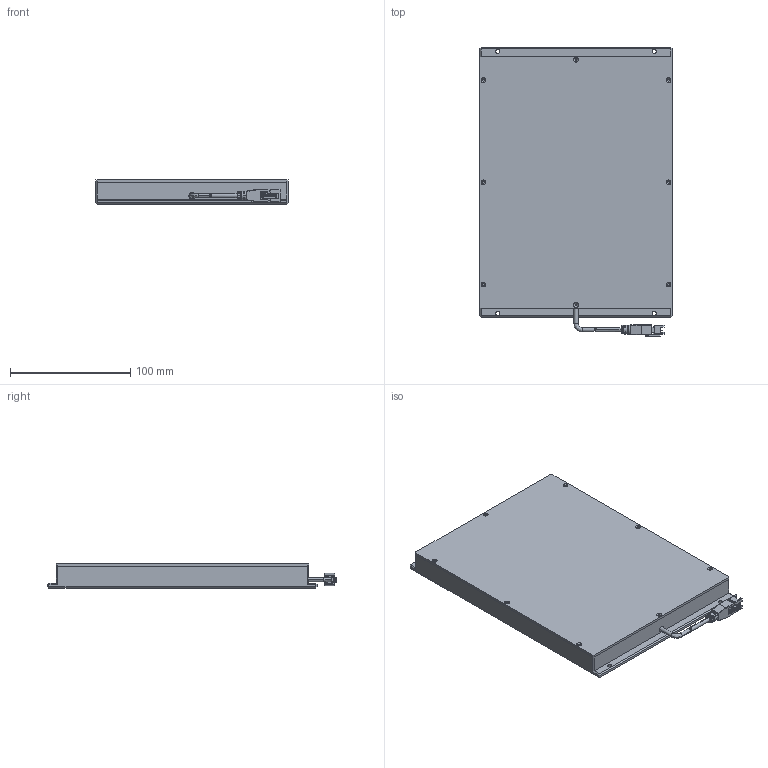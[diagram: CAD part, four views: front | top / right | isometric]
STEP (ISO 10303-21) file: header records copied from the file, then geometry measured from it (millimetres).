
FILE_DESCRIPTION (( 'STEP AP203' ), '1' );
FILE_NAME ('CRT-FLD200150-¼òÒ×3DÍ¼.STEP', '2021-11-24T01:24:21', ( 'Admin' ), ( '' ), 'SwSTEP 2.0', 'SolidWorks 2018', '' );
FILE_SCHEMA (( 'CONFIG_CONTROL_DESIGN' ));
Length unit declared in the file: millimetre
Products named in the file (1): CRT-FLD200150-潠眢3D芞
Bounding box: 160 x 239.95 x 20 mm (x, y, z)
Surface area: 91938.6 mm2 (no closed solid volume)
Topology: 0 solids, 4 shells, 247 faces, 752 edges, 489 vertices
Faces by surface type: plane 142, cylinder 76, cone 20, bspline 8, torus 1
Entity records: 8804 total; most frequent: CARTESIAN_POINT 2073, DIRECTION 1395, ORIENTED_EDGE 1282, EDGE_CURVE 750, VERTEX_POINT 489, VECTOR 483, LINE 483, AXIS2_PLACEMENT_3D 456
